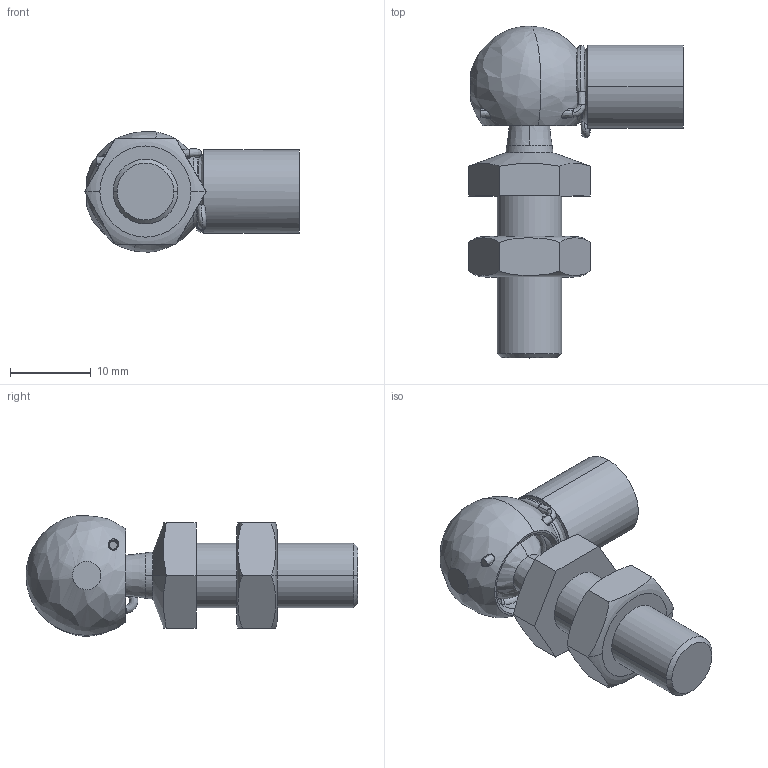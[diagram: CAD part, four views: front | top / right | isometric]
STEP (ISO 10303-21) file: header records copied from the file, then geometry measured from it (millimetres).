
FILE_DESCRIPTION (( 'STEP AP214' ), '1' );
FILE_NAME ('13.CS10M8L19DR20.STEP', '2017-11-22T12:44:47', ( '' ), ( '' ), 'SwSTEP 2.0', 'SolidWorks 2016', '' );
FILE_SCHEMA (( 'AUTOMOTIVE_DESIGN' ));
Length unit declared in the file: millimetre
Products named in the file (1): 13.CS10M8L19DR20
Bounding box: 26.51 x 41 x 14.87 mm (x, y, z)
Volume: 4290.5 mm3; surface area: 3254.5 mm2
Topology: 1 solids, 1 shells, 106 faces, 317 edges, 200 vertices
Faces by surface type: bspline 35, plane 28, cylinder 20, cone 19, torus 4
Entity records: 10494 total; most frequent: CARTESIAN_POINT 7973, ORIENTED_EDGE 600, DIRECTION 429, EDGE_CURVE 300, VERTEX_POINT 200, AXIS2_PLACEMENT_3D 182, EDGE_LOOP 120, B_SPLINE_CURVE_WITH_KNOTS 111
